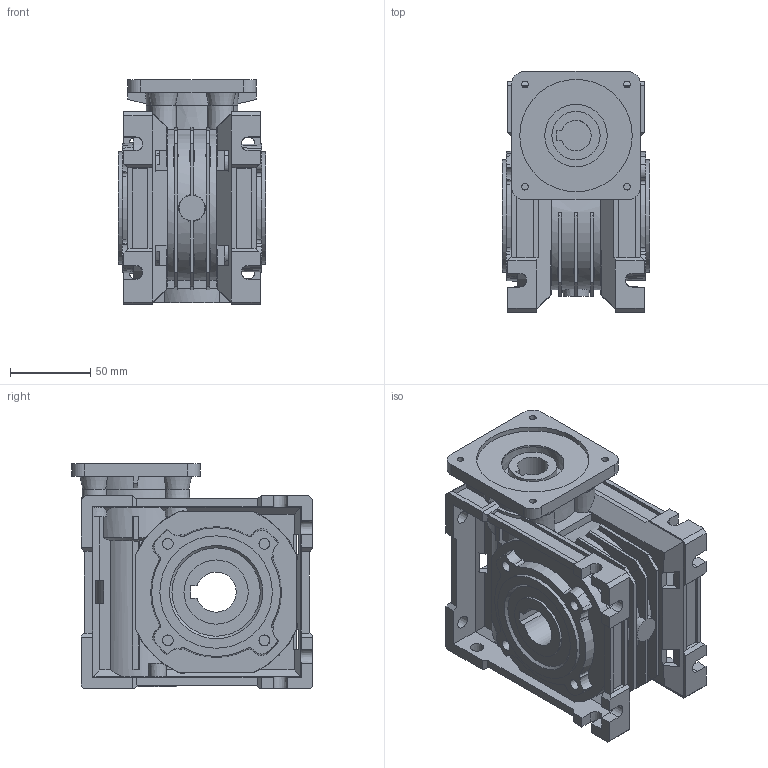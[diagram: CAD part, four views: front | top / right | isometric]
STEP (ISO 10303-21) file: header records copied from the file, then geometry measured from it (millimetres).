
FILE_DESCRIPTION( ( 'Unknown' ), '1' );
FILE_NAME( 'H:/Gear/_CM_050_U_20_80_B14.3d.stp', 'Unknown', ( 'Unknown' ), ( 'Unknown' ), 'PSStep 11.0', 'Unknown', ' ' );
FILE_SCHEMA( ( 'AUTOMOTIVE_DESIGN { 1 0 10303 214 1 1 1 1 }' ) );
Length unit declared in the file: millimetre
Products named in the file (1): cassa50
Bounding box: 92 x 150 x 140 mm (x, y, z)
Volume: 952378.2 mm3; surface area: 171302.6 mm2
Topology: 1 solids, 6 shells, 680 faces, 1931 edges, 1275 vertices
Faces by surface type: plane 489, cone 140, cylinder 27, bspline 24
Full cylindrical faces by diameter (mm): 4.134 x4, 30 x2, 38.935 x1, 40 x2, 47 x1, 55.1 x1, 70 x3
Entity records: 29188 total; most frequent: CARTESIAN_POINT 6284, ORIENTED_EDGE 3724, DIRECTION 3518, EDGE_CURVE 1862, VERTEX_POINT 1249, AXIS2_PLACEMENT_3D 1177, LINE 1164, VECTOR 1164
